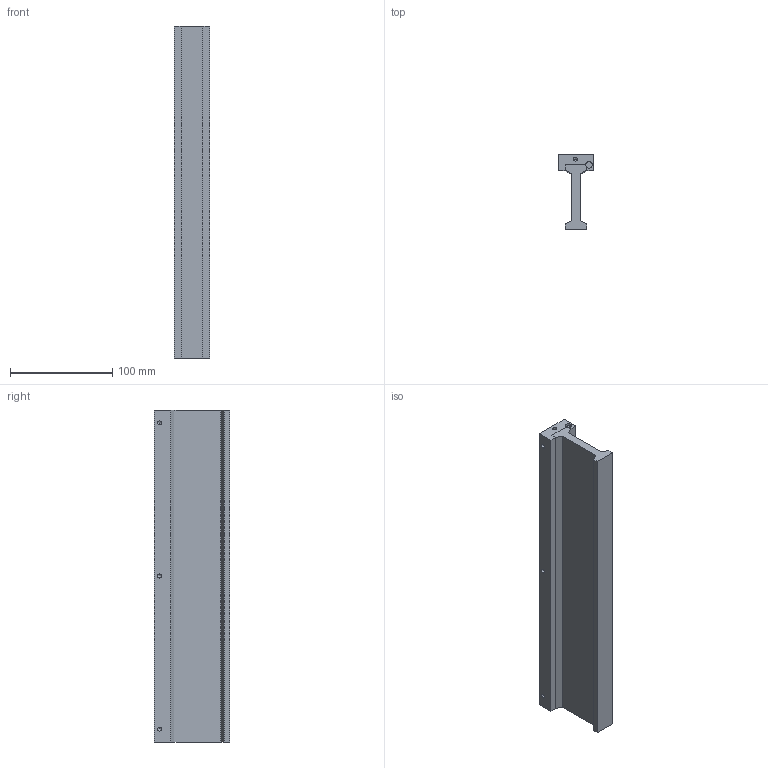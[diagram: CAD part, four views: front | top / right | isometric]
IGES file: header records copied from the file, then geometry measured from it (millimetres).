
Global section: file name: No Iges File Name specified; native system: AutoDesk Inventor R11.0; preprocessor: AutoDesk Inventor Iges Exporter R11.0; author: No Author specified; organization: No Organization specified; date: 20080205.101056; units: inch
Bounding box: 34.29 x 73.66 x 325.12 mm (x, y, z)
Volume: 361372.3 mm3; surface area: 78310.7 mm2
Topology: 1 solids, 1 shells, 41 faces, 105 edges, 61 vertices
Faces by surface type: bspline 20, plane 19, revolution 2
